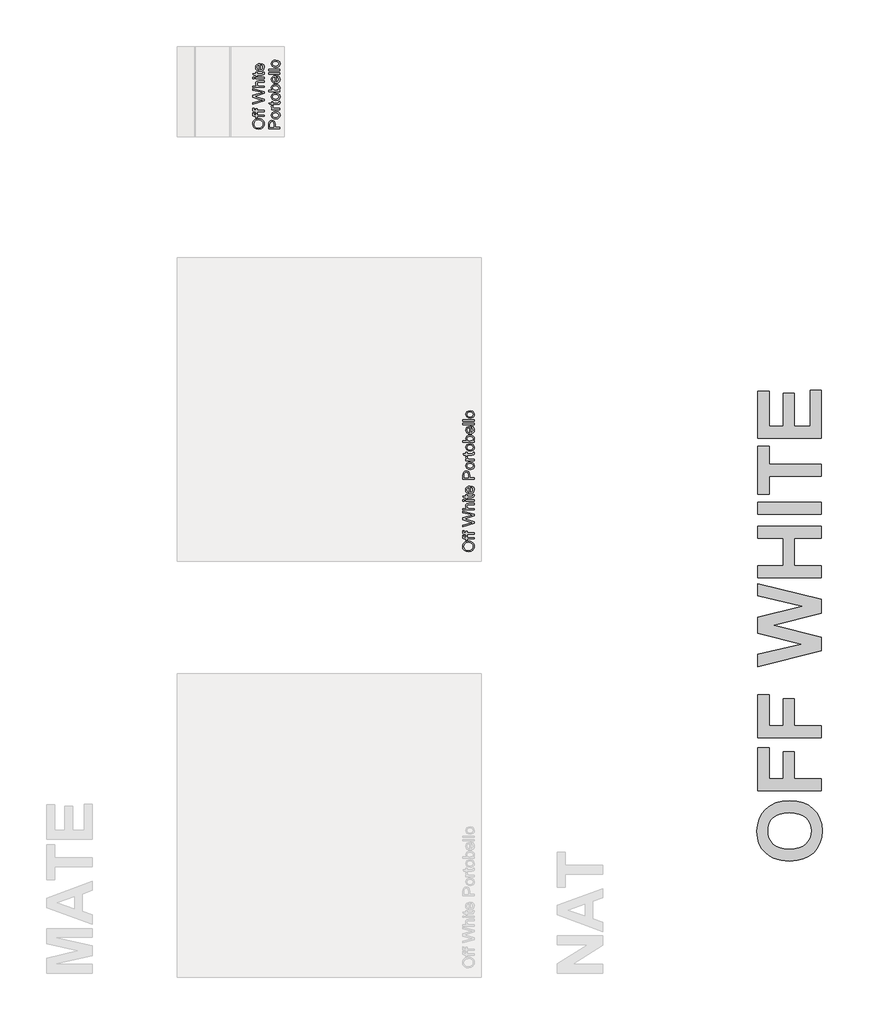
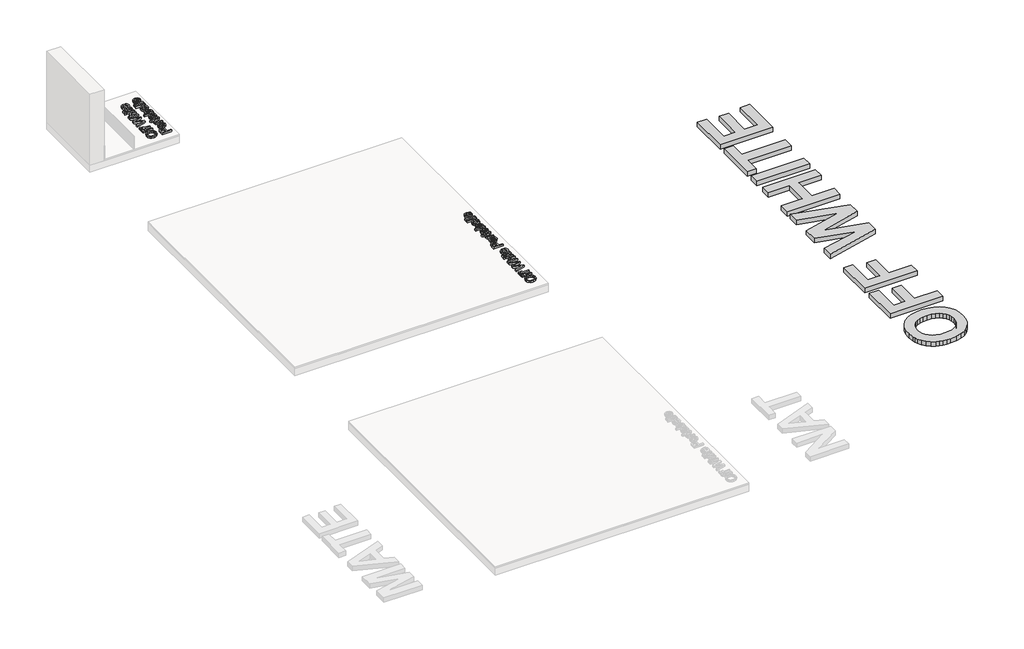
# One storey, part 3 of 8: 5 proxies.
"""IFC4 building model written with IfcOpenShell, lengths in millimetres."""

from ifc_helpers import new_model, si_unit, frame, origin, origin_with_axes, place, context, project, spatial, polyline, outline, extrude, element, save

model = new_model("IFC4")

# Units and contexts
model_context = context("Model", 3, world=origin())
ifc_project = project(units=[si_unit("LENGTHUNIT", "METRE", prefix="MILLI")], contexts=[model_context])

# Site, building, storey
site = spatial("IfcSite", under=ifc_project)
building = spatial("IfcBuilding", under=site)
storey = spatial("IfcBuildingStorey", under=building, Name="PORTOBELLO - SHOWROOM", Elevation=0.0)

# Proxies
placement = place(None, origin())
element("IfcBuildingElementProxy", 1, Name="10mm Arial", ObjectType="10mm Arial", at=placement, inside=storey, context=model_context, shape_type="SweptSolid", body=[
    extrude(outline(polyline([(-5249.1632476, -1584.2478376), (-5271.3771887, -1580.9001115), (-5288.1832645, -1570.856933), (-5298.7598719, -1555.5223851), (-5302.2854077, -1536.3005509), (-5300.6299387, -1523.1242441), (-5295.6635317, -1511.3091007), (-5287.7356748, -1501.4989142), (-5277.1958556, -1494.337478), (-5264.5529777, -1489.9596822), (-5250.3159445, -1488.500417), (-5235.8888389, -1490.0363243), (-5223.0681514, -1494.6440463), (-5212.5099381, -1502.0691313), (-5204.8702553, -1512.0571274), (-5200.2349422, -1523.7711033), (-5198.6898378, -1536.3741273), (-5200.3974234, -1549.7527692), (-5205.5201802, -1561.6353576), (-5213.59519, -1571.4210187), (-5224.1595346, -1578.5088785), (-5249.1632476, -1584.2478376)]), holes=[polyline([(-5249.0406202, -1571.6907988), (-5233.3259277, -1569.1800042), (-5221.3513687, -1561.6476204), (-5213.7729996, -1550.326052), (-5211.2468766, -1536.4477037), (-5213.7975251, -1522.3670203), (-5221.4494706, -1511.0270578), (-5233.7919115, -1503.5498563), (-5250.4140463, -1501.0574558), (-5271.1380654, -1505.3248869), (-5284.8600638, -1517.7960865), (-5289.7283689, -1536.2269745), (-5287.3831212, -1549.7343751), (-5280.347378, -1561.2184247), (-5267.8301931, -1569.0727053), (-5249.0406202, -1571.6907988)])]), frame((0.0, 0.0, 18.0), z_axis=(0.0, 0.0, 1.0), x_axis=(1.0, 0.0, 0.0)), (0.0, 0.0, 1.0), 20.0),
    extrude(outline(polyline([(-5200.2594677, -1428.8544828), (-5261.4750317, -1428.8544828), (-5261.4750317, -1439.8418918), (-5274.0320704, -1439.8418918), (-5274.0320704, -1428.8544828), (-5281.4632867, -1428.8544828), (-5291.9356609, -1427.5301077), (-5299.4159281, -1421.1044355), (-5302.2854077, -1408.4492948), (-5300.9119815, -1396.9959021), (-5289.1397577, -1398.835312), (-5289.7283689, -1406.0703246), (-5287.6437043, -1413.9797875), (-5279.8691314, -1416.2974441), (-5274.0320704, -1416.2974441), (-5274.0320704, -1402.1707755), (-5261.4750317, -1402.1707755), (-5261.4750317, -1416.2974441), (-5200.2594677, -1416.2974441), (-5200.2594677, -1428.8544828)])), frame((0.0, 0.0, 18.0), z_axis=(0.0, 0.0, 1.0), x_axis=(1.0, 0.0, 0.0)), (0.0, 0.0, 1.0), 20.0),
    extrude(outline(polyline([(-5200.2594677, -1469.6648588), (-5261.4750317, -1469.6648588), (-5261.4750317, -1480.6522678), (-5274.0320704, -1480.6522678), (-5274.0320704, -1469.6648588), (-5281.4632867, -1469.6648588), (-5291.9356609, -1468.3404837), (-5299.4159281, -1461.9148115), (-5302.2854077, -1449.2596708), (-5300.9119815, -1437.8062781), (-5289.1397577, -1439.645688), (-5289.7283689, -1446.8807006), (-5287.6437043, -1454.7901635), (-5279.8691314, -1457.1078201), (-5274.0320704, -1457.1078201), (-5274.0320704, -1442.9811515), (-5261.4750317, -1442.9811515), (-5261.4750317, -1457.1078201), (-5200.2594677, -1457.1078201), (-5200.2594677, -1469.6648588)])), frame((0.0, 0.0, 18.0), z_axis=(0.0, 0.0, 1.0), x_axis=(1.0, 0.0, 0.0)), (0.0, 0.0, 1.0), 20.0),
    extrude(outline(polyline([(-5200.2594677, -1332.3958237), (-5300.7157778, -1359.7907696), (-5300.7157778, -1346.8413234), (-5234.6932224, -1330.9488212), (-5214.3125599, -1326.0437279), (-5232.3387776, -1320.7952781), (-5300.7157778, -1300.8805995), (-5300.7157778, -1282.2167196), (-5251.1498103, -1267.7466944), (-5214.3125599, -1256.9800147), (-5234.1046112, -1252.2220742), (-5300.7157778, -1236.2069447), (-5300.7157778, -1223.232973), (-5200.2594677, -1250.6033934), (-5200.2594677, -1264.043349), (-5277.7599413, -1288.1518824), (-5288.575672, -1291.5118713), (-5275.5526493, -1295.2887931), (-5200.2594677, -1317.2390855), (-5200.2594677, -1332.3958237)])), frame((0.0, 0.0, 18.0), z_axis=(0.0, 0.0, 1.0), x_axis=(1.0, 0.0, 0.0)), (0.0, 0.0, 1.0), 20.0),
    extrude(outline(polyline([(-5200.2594677, -1212.2455641), (-5300.7157778, -1212.2455641), (-5300.7157778, -1199.6885253), (-5263.7804255, -1199.6885253), (-5272.6463816, -1189.8967329), (-5275.6017003, -1177.8363348), (-5272.3766015, -1163.7341917), (-5263.4615944, -1155.1748039), (-5246.9559556, -1152.5996299), (-5200.2594677, -1152.5996299), (-5200.2594677, -1165.1566687), (-5245.6561059, -1165.1566687), (-5258.8998577, -1169.1543197), (-5263.0446615, -1180.4850852), (-5260.2487583, -1190.7735183), (-5252.6703892, -1197.6406489), (-5239.4511629, -1199.6885253), (-5200.2594677, -1199.6885253), (-5200.2594677, -1212.2455641)])), frame((0.0, 0.0, 18.0), z_axis=(0.0, 0.0, 1.0), x_axis=(1.0, 0.0, 0.0)), (0.0, 0.0, 1.0), 20.0),
    extrude(outline(polyline([(-5288.158739, -1135.3337016), (-5300.7157778, -1135.3337016), (-5300.7157778, -1122.7766629), (-5288.158739, -1122.7766629), (-5288.158739, -1135.3337016)])), frame((0.0, 0.0, 18.0), z_axis=(0.0, 0.0, 1.0), x_axis=(1.0, 0.0, 0.0)), (0.0, 0.0, 1.0), 20.0),
    extrude(outline(polyline([(-5200.2594677, -1135.3337016), (-5274.0320704, -1135.3337016), (-5274.0320704, -1122.7766629), (-5200.2594677, -1122.7766629), (-5200.2594677, -1135.3337016)])), frame((0.0, 0.0, 18.0), z_axis=(0.0, 0.0, 1.0), x_axis=(1.0, 0.0, 0.0)), (0.0, 0.0, 1.0), 20.0),
    extrude(outline(polyline([(-5210.7318418, -1077.2573973), (-5199.8915857, -1075.6877675), (-5198.6898378, -1085.0810211), (-5200.7745025, -1095.6024461), (-5206.2436815, -1100.8508959), (-5220.4929774, -1102.3714749), (-5261.4750317, -1102.3714749), (-5261.4750317, -1111.7892539), (-5274.0320704, -1111.7892539), (-5274.0320704, -1102.3714749), (-5291.9601863, -1102.3714749), (-5299.3423517, -1089.8144361), (-5274.0320704, -1089.8144361), (-5274.0320704, -1077.2573973), (-5261.4750317, -1077.2573973), (-5261.4750317, -1089.8144361), (-5220.8608594, -1089.8144361), (-5214.3861363, -1089.1522485), (-5212.0930052, -1087.0062702), (-5211.2468766, -1082.7265763), (-5210.7318418, -1077.2573973)])), frame((0.0, 0.0, 18.0), z_axis=(0.0, 0.0, 1.0), x_axis=(1.0, 0.0, 0.0)), (0.0, 0.0, 1.0), 20.0),
    extrude(outline(polyline([(-5222.2342855, -1013.0497264), (-5220.6646557, -1000.7379423), (-5211.387898, -1005.173986), (-5204.4533224, -1012.2526488), (-5200.130709, -1021.814515), (-5198.6898378, -1033.7001691), (-5201.176107, -1048.433843), (-5208.6349144, -1059.7707398), (-5220.5818822, -1066.999621), (-5236.5326324, -1069.4092481), (-5253.0198771, -1066.9750956), (-5265.3500553, -1059.672638), (-5273.038789, -1048.4890253), (-5275.6017003, -1034.4114076), (-5273.0449204, -1020.7721826), (-5265.3745808, -1009.8736785), (-5253.0689281, -1002.7275708), (-5236.6062088, -1000.3455349), (-5233.2216944, -1000.4191113), (-5233.2216944, -1056.8522093), (-5223.8223095, -1054.6786399), (-5216.9122593, -1049.6294595), (-5212.6632223, -1042.3423303), (-5211.2468766, -1033.4549144), (-5213.8711015, -1021.1431303), (-5222.2342855, -1013.0497264)]), holes=[polyline([(-5245.7787332, -1056.8522093), (-5245.7787332, -1012.9025736), (-5257.1585496, -1017.9302942), (-5261.5731335, -1025.2511459), (-5263.0446615, -1034.4604585), (-5258.3480347, -1049.9237651), (-5252.8573959, -1054.7890045), (-5245.7787332, -1056.8522093)])]), frame((0.0, 0.0, 18.0), z_axis=(0.0, 0.0, 1.0), x_axis=(1.0, 0.0, 0.0)), (0.0, 0.0, 1.0), 20.0),
])
element("IfcBuildingElementProxy", 2, Name="10mm Arial", ObjectType="10mm Arial", at=placement, inside=storey, context=model_context, shape_type="SweptSolid", body=[
    extrude(outline(polyline([(-3382.1699292, -5341.2383616), (-3404.3838704, -5337.8906354), (-3421.1899462, -5327.8474569), (-3431.7665535, -5312.5129091), (-3435.2920893, -5293.2910749), (-3433.6366203, -5280.1147681), (-3428.6702134, -5268.2996247), (-3420.7423564, -5258.4894381), (-3410.2025372, -5251.328002), (-3397.5596593, -5246.9502062), (-3383.3226261, -5245.490941), (-3368.8955206, -5247.0268483), (-3356.074833, -5251.6345703), (-3345.5166198, -5259.0596552), (-3337.876937, -5269.0476514), (-3333.2416239, -5280.7616272), (-3331.6965195, -5293.3646513), (-3333.4041051, -5306.7432932), (-3338.5268618, -5318.6258816), (-3346.6018716, -5328.4115427), (-3357.1662163, -5335.4994024), (-3382.1699292, -5341.2383616)]), holes=[polyline([(-3382.0473019, -5328.6813228), (-3366.3326093, -5326.1705282), (-3354.3580504, -5318.6381443), (-3346.7796813, -5307.3165759), (-3344.2535582, -5293.4382277), (-3346.8042067, -5279.3575443), (-3354.4561522, -5268.0175818), (-3366.7985932, -5260.5403802), (-3383.420728, -5258.0479797), (-3404.1447471, -5262.3154109), (-3417.8667455, -5274.7866105), (-3422.7350505, -5293.2174985), (-3420.3898028, -5306.7248991), (-3413.3540597, -5318.2089487), (-3400.8368748, -5326.0632293), (-3382.0473019, -5328.6813228)])]), frame((0.0, 0.0, 17.0), z_axis=(0.0, 0.0, 1.0), x_axis=(1.0, 0.0, 0.0)), (0.0, 0.0, 1.0), 20.0),
    extrude(outline(polyline([(-3333.2661493, -5185.8450068), (-3394.4817133, -5185.8450068), (-3394.4817133, -5196.8324157), (-3407.0387521, -5196.8324157), (-3407.0387521, -5185.8450068), (-3414.4699684, -5185.8450068), (-3424.9423425, -5184.5206316), (-3432.4226098, -5178.0949594), (-3435.2920893, -5165.4398188), (-3433.9186632, -5153.986426), (-3422.1464394, -5155.825836), (-3422.7350505, -5163.0608486), (-3420.6503859, -5170.9703115), (-3412.8758131, -5173.287968), (-3407.0387521, -5173.287968), (-3407.0387521, -5159.1612994), (-3394.4817133, -5159.1612994), (-3394.4817133, -5173.287968), (-3333.2661493, -5173.287968), (-3333.2661493, -5185.8450068)])), frame((0.0, 0.0, 17.0), z_axis=(0.0, 0.0, 1.0), x_axis=(1.0, 0.0, 0.0)), (0.0, 0.0, 1.0), 20.0),
    extrude(outline(polyline([(-3333.2661493, -5226.6553828), (-3394.4817133, -5226.6553828), (-3394.4817133, -5237.6427917), (-3407.0387521, -5237.6427917), (-3407.0387521, -5226.6553828), (-3414.4699684, -5226.6553828), (-3424.9423425, -5225.3310076), (-3432.4226098, -5218.9053354), (-3435.2920893, -5206.2501948), (-3433.9186632, -5194.796802), (-3422.1464394, -5196.636212), (-3422.7350505, -5203.8712246), (-3420.6503859, -5211.7806875), (-3412.8758131, -5214.098344), (-3407.0387521, -5214.098344), (-3407.0387521, -5199.9716754), (-3394.4817133, -5199.9716754), (-3394.4817133, -5214.098344), (-3333.2661493, -5214.098344), (-3333.2661493, -5226.6553828)])), frame((0.0, 0.0, 17.0), z_axis=(0.0, 0.0, 1.0), x_axis=(1.0, 0.0, 0.0)), (0.0, 0.0, 1.0), 20.0),
    extrude(outline(polyline([(-3333.2661493, -5089.3863477), (-3433.7224595, -5116.7812936), (-3433.7224595, -5103.8318474), (-3367.6999041, -5087.9393452), (-3347.3192415, -5083.0342519), (-3365.3454593, -5077.7858021), (-3433.7224595, -5057.8711234), (-3433.7224595, -5039.2072435), (-3384.156492, -5024.7372184), (-3347.3192415, -5013.9705387), (-3367.1112929, -5009.2125982), (-3433.7224595, -4993.1729432), (-3433.7224595, -4980.223497), (-3333.2661493, -5007.6429683), (-3333.2661493, -5021.0583984), (-3410.766623, -5045.1424064), (-3421.5823536, -5048.5023953), (-3408.559331, -5052.2793171), (-3333.2661493, -5074.2296095), (-3333.2661493, -5089.3863477)])), frame((0.0, 0.0, 17.0), z_axis=(0.0, 0.0, 1.0), x_axis=(1.0, 0.0, 0.0)), (0.0, 0.0, 1.0), 20.0),
    extrude(outline(polyline([(-3333.2661493, -4969.236088), (-3433.7224595, -4969.236088), (-3433.7224595, -4956.6790493), (-3396.7871072, -4956.6790493), (-3405.6530632, -4946.8872568), (-3408.6083819, -4934.8268588), (-3405.3832831, -4920.7247156), (-3396.4682761, -4912.1653279), (-3379.9626372, -4909.5901539), (-3333.2661493, -4909.5901539), (-3333.2661493, -4922.1471927), (-3378.6627875, -4922.1471927), (-3391.9065393, -4926.1448437), (-3396.0513432, -4937.4756091), (-3393.25544, -4947.7640423), (-3385.6770709, -4954.6311728), (-3372.4578445, -4956.6790493), (-3333.2661493, -4956.6790493), (-3333.2661493, -4969.236088)])), frame((0.0, 0.0, 17.0), z_axis=(0.0, 0.0, 1.0), x_axis=(1.0, 0.0, 0.0)), (0.0, 0.0, 1.0), 20.0),
    extrude(outline(polyline([(-3421.1654207, -4892.3242256), (-3433.7224595, -4892.3242256), (-3433.7224595, -4879.7671868), (-3421.1654207, -4879.7671868), (-3421.1654207, -4892.3242256)])), frame((0.0, 0.0, 17.0), z_axis=(0.0, 0.0, 1.0), x_axis=(1.0, 0.0, 0.0)), (0.0, 0.0, 1.0), 20.0),
    extrude(outline(polyline([(-3333.2661493, -4892.3242256), (-3407.0387521, -4892.3242256), (-3407.0387521, -4879.7671868), (-3333.2661493, -4879.7671868), (-3333.2661493, -4892.3242256)])), frame((0.0, 0.0, 17.0), z_axis=(0.0, 0.0, 1.0), x_axis=(1.0, 0.0, 0.0)), (0.0, 0.0, 1.0), 20.0),
    extrude(outline(polyline([(-3343.7385234, -4834.2479213), (-3332.8982673, -4832.6782914), (-3331.6965195, -4842.071545), (-3333.7811841, -4852.5929701), (-3339.2503631, -4857.8414199), (-3353.4996591, -4859.3619988), (-3394.4817133, -4859.3619988), (-3394.4817133, -4868.7797779), (-3407.0387521, -4868.7797779), (-3407.0387521, -4859.3619988), (-3424.966868, -4859.3619988), (-3432.3490334, -4846.8049601), (-3407.0387521, -4846.8049601), (-3407.0387521, -4834.2479213), (-3394.4817133, -4834.2479213), (-3394.4817133, -4846.8049601), (-3353.867541, -4846.8049601), (-3347.3928179, -4846.1427725), (-3345.0996868, -4843.9967942), (-3344.2535582, -4839.7171003), (-3343.7385234, -4834.2479213)])), frame((0.0, 0.0, 17.0), z_axis=(0.0, 0.0, 1.0), x_axis=(1.0, 0.0, 0.0)), (0.0, 0.0, 1.0), 20.0),
    extrude(outline(polyline([(-3355.2409672, -4770.0402504), (-3353.6713373, -4757.7284663), (-3344.3945797, -4762.16451), (-3337.4600041, -4769.2431727), (-3333.1373906, -4778.8050389), (-3331.6965195, -4790.6906931), (-3334.1827886, -4805.424367), (-3341.6415961, -4816.7612638), (-3353.5885639, -4823.990145), (-3369.539314, -4826.3997721), (-3386.0265588, -4823.9656195), (-3398.356737, -4816.6631619), (-3406.0454707, -4805.4795493), (-3408.6083819, -4791.4019316), (-3406.0516021, -4777.7627066), (-3398.3812625, -4766.8642025), (-3386.0756097, -4759.7180947), (-3369.6128904, -4757.3360588), (-3366.2283761, -4757.4096352), (-3366.2283761, -4813.8427333), (-3356.8289911, -4811.6691638), (-3349.918941, -4806.6199834), (-3345.6699039, -4799.3328543), (-3344.2535582, -4790.4454384), (-3346.8777831, -4778.1336543), (-3355.2409672, -4770.0402504)]), holes=[polyline([(-3378.7854149, -4813.8427333), (-3378.7854149, -4769.8930976), (-3390.1652312, -4774.9208182), (-3394.5798152, -4782.2416699), (-3396.0513432, -4791.4509825), (-3391.3547164, -4806.914289), (-3385.8640776, -4811.7795284), (-3378.7854149, -4813.8427333)])]), frame((0.0, 0.0, 17.0), z_axis=(0.0, 0.0, 1.0), x_axis=(1.0, 0.0, 0.0)), (0.0, 0.0, 1.0), 20.0),
])
element("IfcBuildingElementProxy", 3, Name="10mm Arial", ObjectType="10mm Arial", at=placement, inside=storey, context=model_context, shape_type="SweptSolid", body=[
    extrude(outline(polyline([(-3331.3073778, -4697.4320978), (-3431.7636879, -4697.4320978), (-3431.7636879, -4660.2024399), (-3430.8071948, -4645.1928545), (-3426.110568, -4632.991435), (-3416.3984833, -4625.0819721), (-3402.7010103, -4622.0898652), (-3390.8613414, -4624.1101505), (-3380.9959726, -4630.1710064), (-3374.3373085, -4641.5048375), (-3372.1177538, -4659.3440486), (-3372.1177538, -4684.875059), (-3331.3073778, -4684.875059), (-3331.3073778, -4697.4320978)]), holes=[polyline([(-3384.6747926, -4684.875059), (-3384.6747926, -4658.6082846), (-3389.2855802, -4640.116083), (-3394.834467, -4636.0141987), (-3402.2595519, -4634.646904), (-3412.6583497, -4637.8720028), (-3418.3482579, -4646.3455514), (-3419.2066492, -4658.9025902), (-3419.2066492, -4684.875059), (-3384.6747926, -4684.875059)])]), frame((0.0, 0.0, 17.0), z_axis=(0.0, 0.0, 1.0), x_axis=(1.0, 0.0, 0.0)), (0.0, 0.0, 1.0), 20.0),
    extrude(outline(polyline([(-3368.1936792, -4609.5328264), (-3385.9807736, -4606.816631), (-3398.4826301, -4598.6680448), (-3404.6078653, -4588.6003409), (-3406.6496104, -4576.5460742), (-3404.1633413, -4563.354439), (-3396.7045338, -4552.8176855), (-3384.8617992, -4545.9107011), (-3369.2237488, -4543.6083729), (-3346.8810489, -4547.6796003), (-3334.238171, -4559.5376633), (-3329.7377479, -4576.5460742), (-3332.21482, -4589.8971249), (-3339.6460364, -4600.4216157), (-3351.7370913, -4607.2550237), (-3368.1936792, -4609.5328264)]), holes=[polyline([(-3368.2182046, -4596.9757877), (-3356.8537167, -4595.5226538), (-3348.7572471, -4591.1632521), (-3343.9104018, -4584.6026899), (-3342.2947867, -4576.5460742), (-3343.9195989, -4568.5262467), (-3348.7940353, -4561.9779472), (-3356.9978038, -4557.6185455), (-3368.6106121, -4556.1654117), (-3379.6440063, -4557.6277426), (-3387.6301113, -4562.0147354), (-3392.4769565, -4568.572232), (-3394.0925716, -4576.5460742), (-3392.4830879, -4584.6026899), (-3387.6546367, -4591.1632521), (-3379.5765612, -4595.5226538), (-3368.2182046, -4596.9757877)])]), frame((0.0, 0.0, 17.0), z_axis=(0.0, 0.0, 1.0), x_axis=(1.0, 0.0, 0.0)), (0.0, 0.0, 1.0), 20.0),
    extrude(outline(polyline([(-3331.3073778, -4529.4817043), (-3405.0799806, -4529.4817043), (-3405.0799806, -4518.4942954), (-3394.166148, -4518.4942954), (-3404.2215892, -4510.6951971), (-3406.6496104, -4502.8470478), (-3402.7745867, -4490.2409581), (-3391.5173977, -4494.4348129), (-3394.0925716, -4503.2639808), (-3391.6154995, -4510.3641033), (-3384.748369, -4514.8890518), (-3370.0821401, -4516.9246655), (-3331.3073778, -4516.9246655), (-3331.3073778, -4529.4817043)])), frame((0.0, 0.0, 17.0), z_axis=(0.0, 0.0, 1.0), x_axis=(1.0, 0.0, 0.0)), (0.0, 0.0, 1.0), 20.0),
    extrude(outline(polyline([(-3341.7797519, -4455.7091015), (-3330.9394958, -4454.1394717), (-3329.7377479, -4463.5327253), (-3331.8224126, -4474.0541503), (-3337.2915916, -4479.3026001), (-3351.5408875, -4480.8231791), (-3392.5229418, -4480.8231791), (-3392.5229418, -4490.2409581), (-3402.7745867, -4490.2409581), (-3405.0799806, -4490.2409581), (-3405.0799806, -4480.8231791), (-3423.0080965, -4480.8231791), (-3430.3902618, -4468.2661403), (-3405.0799806, -4468.2661403), (-3405.0799806, -4455.7091015), (-3392.5229418, -4455.7091015), (-3392.5229418, -4468.2661403), (-3351.9087695, -4468.2661403), (-3345.4340464, -4467.6039527), (-3343.1409153, -4465.4579744), (-3342.2947867, -4461.1782805), (-3341.7797519, -4455.7091015)])), frame((0.0, 0.0, 17.0), z_axis=(0.0, 0.0, 1.0), x_axis=(1.0, 0.0, 0.0)), (0.0, 0.0, 1.0), 20.0),
    extrude(outline(polyline([(-3368.1936792, -4446.2913224), (-3385.9807736, -4443.575127), (-3398.4826301, -4435.4265408), (-3404.6078653, -4425.3588369), (-3406.6496104, -4413.3045702), (-3404.1633413, -4400.112935), (-3396.7045338, -4389.5761815), (-3384.8617992, -4382.6691971), (-3369.2237488, -4380.3668689), (-3346.8810489, -4384.4380963), (-3334.238171, -4396.2961593), (-3329.7377479, -4413.3045702), (-3332.21482, -4426.6556209), (-3339.6460364, -4437.1801117), (-3351.7370913, -4444.0135198), (-3368.1936792, -4446.2913224)]), holes=[polyline([(-3368.2182046, -4433.7342837), (-3356.8537167, -4432.2811498), (-3348.7572471, -4427.9217481), (-3343.9104018, -4421.3611859), (-3342.2947867, -4413.3045702), (-3343.9195989, -4405.2847427), (-3348.7940353, -4398.7364432), (-3356.9978038, -4394.3770416), (-3368.6106121, -4392.9239077), (-3379.6440063, -4394.3862386), (-3387.6301113, -4398.7732314), (-3392.4769565, -4405.330728), (-3394.0925716, -4413.3045702), (-3392.4830879, -4421.3611859), (-3387.6546367, -4427.9217481), (-3379.5765612, -4432.2811498), (-3368.2182046, -4433.7342837)])]), frame((0.0, 0.0, 17.0), z_axis=(0.0, 0.0, 1.0), x_axis=(1.0, 0.0, 0.0)), (0.0, 0.0, 1.0), 20.0),
    extrude(outline(polyline([(-3331.3073778, -4353.6831615), (-3331.3073778, -4366.2402003), (-3431.7636879, -4366.2402003), (-3431.7636879, -4353.6831615), (-3394.5095046, -4353.6831615), (-3403.6145839, -4344.8907818), (-3406.6496104, -4333.9646866), (-3403.9150209, -4321.3831223), (-3396.2262872, -4311.6219867), (-3384.2701224, -4305.6255102), (-3369.2973252, -4303.4550064), (-3352.5341689, -4305.7021523), (-3340.0629693, -4312.4435899), (-3332.3190533, -4322.3365498), (-3329.7377479, -4334.038263), (-3333.06708, -4345.2034815), (-3343.0550762, -4353.6831615), (-3331.3073778, -4353.6831615)]), holes=[polyline([(-3368.708714, -4353.6831615), (-3351.1484801, -4350.2495962), (-3344.5082101, -4343.6706399), (-3342.2947867, -4335.1173835), (-3343.9257302, -4327.8701082), (-3348.8185608, -4321.6774279), (-3356.9426215, -4317.4283909), (-3368.2672556, -4316.0120452), (-3379.7574366, -4317.3701429), (-3387.7895268, -4321.444436), (-3392.5168104, -4327.4439782), (-3394.0925716, -4334.5778232), (-3392.4616281, -4341.8250985), (-3387.5687976, -4348.0177788), (-3379.5918897, -4352.2668158), (-3368.708714, -4353.6831615)])]), frame((0.0, 0.0, 17.0), z_axis=(0.0, 0.0, 1.0), x_axis=(1.0, 0.0, 0.0)), (0.0, 0.0, 1.0), 20.0),
    extrude(outline(polyline([(-3353.2821956, -4237.6777057), (-3351.7125658, -4225.3659216), (-3342.4358081, -4229.8019653), (-3335.5012325, -4236.8806281), (-3331.1786191, -4246.4424942), (-3329.7377479, -4258.3281484), (-3332.2240171, -4273.0618223), (-3339.6828246, -4284.3987191), (-3351.6297923, -4291.6276003), (-3367.5805425, -4294.0372274), (-3384.0677873, -4291.6030748), (-3396.3979655, -4284.3006172), (-3404.0866992, -4273.1170046), (-3406.6496104, -4259.0393869), (-3404.0928305, -4245.4001619), (-3396.4224909, -4234.5016578), (-3384.1168382, -4227.3555501), (-3367.6541189, -4224.9735141), (-3364.2696046, -4225.0470905), (-3364.2696046, -4281.4801886), (-3354.8702196, -4279.3066191), (-3347.9601694, -4274.2574388), (-3343.7111324, -4266.9703096), (-3342.2947867, -4258.0828937), (-3344.9190116, -4245.7711096), (-3353.2821956, -4237.6777057)]), holes=[polyline([(-3376.8266433, -4281.4801886), (-3376.8266433, -4237.5305529), (-3388.2064597, -4242.5582735), (-3392.6210437, -4249.8791252), (-3394.0925716, -4259.0884378), (-3389.3959448, -4274.5517444), (-3383.9053061, -4279.4169837), (-3376.8266433, -4281.4801886)])]), frame((0.0, 0.0, 17.0), z_axis=(0.0, 0.0, 1.0), x_axis=(1.0, 0.0, 0.0)), (0.0, 0.0, 1.0), 20.0),
    extrude(outline(polyline([(-3331.3073778, -4212.4164754), (-3431.7636879, -4212.4164754), (-3431.7636879, -4199.8594366), (-3331.3073778, -4199.8594366), (-3331.3073778, -4212.4164754)])), frame((0.0, 0.0, 17.0), z_axis=(0.0, 0.0, 1.0), x_axis=(1.0, 0.0, 0.0)), (0.0, 0.0, 1.0), 20.0),
    extrude(outline(polyline([(-3331.3073778, -4181.0238785), (-3431.7636879, -4181.0238785), (-3431.7636879, -4168.4668397), (-3331.3073778, -4168.4668397), (-3331.3073778, -4181.0238785)])), frame((0.0, 0.0, 17.0), z_axis=(0.0, 0.0, 1.0), x_axis=(1.0, 0.0, 0.0)), (0.0, 0.0, 1.0), 20.0),
    extrude(outline(polyline([(-3368.1936792, -4152.7705412), (-3385.9807736, -4150.0543458), (-3398.4826301, -4141.9057596), (-3404.6078653, -4131.8380557), (-3406.6496104, -4119.783789), (-3404.1633413, -4106.5921538), (-3396.7045338, -4096.0554003), (-3384.8617992, -4089.1484158), (-3369.2237488, -4086.8460877), (-3346.8810489, -4090.9173151), (-3334.238171, -4102.7753781), (-3329.7377479, -4119.783789), (-3332.21482, -4133.1348397), (-3339.6460364, -4143.6593305), (-3351.7370913, -4150.4927385), (-3368.1936792, -4152.7705412)]), holes=[polyline([(-3368.2182046, -4140.2135025), (-3356.8537167, -4138.7603686), (-3348.7572471, -4134.4009669), (-3343.9104018, -4127.8404047), (-3342.2947867, -4119.783789), (-3343.9195989, -4111.7639615), (-3348.7940353, -4105.215662), (-3356.9978038, -4100.8562603), (-3368.6106121, -4099.4031265), (-3379.6440063, -4100.8654574), (-3387.6301113, -4105.2524502), (-3392.4769565, -4111.8099467), (-3394.0925716, -4119.783789), (-3392.4830879, -4127.8404047), (-3387.6546367, -4134.4009669), (-3379.5765612, -4138.7603686), (-3368.2182046, -4140.2135025)])]), frame((0.0, 0.0, 17.0), z_axis=(0.0, 0.0, 1.0), x_axis=(1.0, 0.0, 0.0)), (0.0, 0.0, 1.0), 20.0),
])
element("IfcBuildingElementProxy", 4, Name="10mm OpenSans Light", ObjectType="10mm OpenSans Light", at=placement, inside=storey, context=model_context, shape_type="SweptSolid", body=[
    extrude(outline(polyline([(-5060.2594677, -1579.5389481), (-5160.7157778, -1579.5389481), (-5160.7157778, -1542.3092902), (-5159.7592846, -1527.2997048), (-5155.0626578, -1515.0982852), (-5145.3505732, -1507.1888224), (-5131.6531002, -1504.1967155), (-5119.8134313, -1506.2170007), (-5109.9480625, -1512.2778566), (-5103.2893984, -1523.6116878), (-5101.0698437, -1541.4508988), (-5101.0698437, -1566.9819093), (-5060.2594677, -1566.9819093), (-5060.2594677, -1579.5389481)]), holes=[polyline([(-5113.6268824, -1566.9819093), (-5113.6268824, -1540.7151348), (-5118.2376701, -1522.2229332), (-5123.7865569, -1518.121049), (-5131.2116418, -1516.7537542), (-5141.6104395, -1519.978853), (-5147.3003477, -1528.4524017), (-5148.158739, -1541.0094404), (-5148.158739, -1566.9819093), (-5113.6268824, -1566.9819093)])]), frame((0.0, 0.0, 18.0), z_axis=(0.0, 0.0, 1.0), x_axis=(1.0, 0.0, 0.0)), (0.0, 0.0, 1.0), 20.0),
    extrude(outline(polyline([(-5097.145769, -1491.6396767), (-5114.9328635, -1488.9234813), (-5127.43472, -1480.7748951), (-5133.5599552, -1470.7071912), (-5135.6017003, -1458.6529245), (-5133.1154311, -1445.4612892), (-5125.6566237, -1434.9245358), (-5113.8138891, -1428.0175513), (-5098.1758386, -1425.7152232), (-5075.8331388, -1429.7864506), (-5063.1902609, -1441.6445135), (-5058.6898378, -1458.6529245), (-5061.1669099, -1472.0039752), (-5068.5981262, -1482.5284659), (-5080.6891811, -1489.361874), (-5097.145769, -1491.6396767)]), holes=[polyline([(-5097.1702945, -1479.0826379), (-5085.8058065, -1477.629504), (-5077.709337, -1473.2701024), (-5072.8624917, -1466.7095401), (-5071.2468766, -1458.6529245), (-5072.8716887, -1450.633097), (-5077.7461252, -1444.0847974), (-5085.9498937, -1439.7253958), (-5097.562702, -1438.2722619), (-5108.5960961, -1439.7345929), (-5116.5822011, -1444.1215856), (-5121.4290464, -1450.6790822), (-5123.0446615, -1458.6529245), (-5121.4351778, -1466.7095401), (-5116.6067266, -1473.2701024), (-5108.5286511, -1477.629504), (-5097.1702945, -1479.0826379)])]), frame((0.0, 0.0, 18.0), z_axis=(0.0, 0.0, 1.0), x_axis=(1.0, 0.0, 0.0)), (0.0, 0.0, 1.0), 20.0),
    extrude(outline(polyline([(-5060.2594677, -1411.5885545), (-5134.0320704, -1411.5885545), (-5134.0320704, -1400.6011456), (-5123.1182379, -1400.6011456), (-5133.1736791, -1392.8020473), (-5135.6017003, -1384.9538981), (-5131.7266766, -1372.3478084), (-5120.4694875, -1376.5416631), (-5123.0446615, -1385.370831), (-5120.5675894, -1392.4709535), (-5113.7004588, -1396.9959021), (-5099.03423, -1399.0315158), (-5060.2594677, -1399.0315158), (-5060.2594677, -1411.5885545)])), frame((0.0, 0.0, 18.0), z_axis=(0.0, 0.0, 1.0), x_axis=(1.0, 0.0, 0.0)), (0.0, 0.0, 1.0), 20.0),
    extrude(outline(polyline([(-5070.7318418, -1337.8159518), (-5059.8915857, -1336.2463219), (-5058.6898378, -1345.6395755), (-5060.7745025, -1356.1610006), (-5066.2436815, -1361.4094504), (-5080.4929774, -1362.9300293), (-5121.4750317, -1362.9300293), (-5121.4750317, -1372.3478084), (-5131.7266766, -1372.3478084), (-5134.0320704, -1372.3478084), (-5134.0320704, -1362.9300293), (-5151.9601863, -1362.9300293), (-5159.3423517, -1350.3729905), (-5134.0320704, -1350.3729905), (-5134.0320704, -1337.8159518), (-5121.4750317, -1337.8159518), (-5121.4750317, -1350.3729905), (-5080.8608594, -1350.3729905), (-5074.3861363, -1349.7108029), (-5072.0930052, -1347.5648246), (-5071.2468766, -1343.2851308), (-5070.7318418, -1337.8159518)])), frame((0.0, 0.0, 18.0), z_axis=(0.0, 0.0, 1.0), x_axis=(1.0, 0.0, 0.0)), (0.0, 0.0, 1.0), 20.0),
    extrude(outline(polyline([(-5097.145769, -1328.3981727), (-5114.9328635, -1325.6819773), (-5127.43472, -1317.5333911), (-5133.5599552, -1307.4656872), (-5135.6017003, -1295.4114205), (-5133.1154311, -1282.2197852), (-5125.6566237, -1271.6830318), (-5113.8138891, -1264.7760473), (-5098.1758386, -1262.4737192), (-5075.8331388, -1266.5449466), (-5063.1902609, -1278.4030095), (-5058.6898378, -1295.4114205), (-5061.1669099, -1308.7624712), (-5068.5981262, -1319.2869619), (-5080.6891811, -1326.12037), (-5097.145769, -1328.3981727)]), holes=[polyline([(-5097.1702945, -1315.8411339), (-5085.8058065, -1314.388), (-5077.709337, -1310.0285984), (-5072.8624917, -1303.4680362), (-5071.2468766, -1295.4114205), (-5072.8716887, -1287.391593), (-5077.7461252, -1280.8432935), (-5085.9498937, -1276.4838918), (-5097.562702, -1275.0307579), (-5108.5960961, -1276.4930889), (-5116.5822011, -1280.8800817), (-5121.4290464, -1287.4375782), (-5123.0446615, -1295.4114205), (-5121.4351778, -1303.4680362), (-5116.6067266, -1310.0285984), (-5108.5286511, -1314.388), (-5097.1702945, -1315.8411339)])]), frame((0.0, 0.0, 18.0), z_axis=(0.0, 0.0, 1.0), x_axis=(1.0, 0.0, 0.0)), (0.0, 0.0, 1.0), 20.0),
    extrude(outline(polyline([(-5060.2594677, -1235.7900118), (-5060.2594677, -1248.3470505), (-5160.7157778, -1248.3470505), (-5160.7157778, -1235.7900118), (-5123.4615944, -1235.7900118), (-5132.5666738, -1226.9976321), (-5135.6017003, -1216.0715368), (-5132.8671108, -1203.4899726), (-5125.1783771, -1193.728837), (-5113.2222122, -1187.7323605), (-5098.249415, -1185.5618567), (-5081.4862588, -1187.8090026), (-5069.0150592, -1194.5504401), (-5061.2711432, -1204.4434001), (-5058.6898378, -1216.1451132), (-5062.0191699, -1227.3103318), (-5072.007166, -1235.7900118), (-5060.2594677, -1235.7900118)]), holes=[polyline([(-5097.6608038, -1235.7900118), (-5080.1005699, -1232.3564465), (-5073.4602999, -1225.7774901), (-5071.2468766, -1217.2242338), (-5072.8778201, -1209.9769584), (-5077.7706506, -1203.7842782), (-5085.8947114, -1199.5352412), (-5097.2193454, -1198.1188955), (-5108.7095264, -1199.4769932), (-5116.7416167, -1203.5512863), (-5121.4689003, -1209.5508285), (-5123.0446615, -1216.6846735), (-5121.413718, -1223.9319488), (-5116.5208875, -1230.124629), (-5108.5439795, -1234.3736661), (-5097.6608038, -1235.7900118)])]), frame((0.0, 0.0, 18.0), z_axis=(0.0, 0.0, 1.0), x_axis=(1.0, 0.0, 0.0)), (0.0, 0.0, 1.0), 20.0),
    extrude(outline(polyline([(-5082.2342855, -1119.784556), (-5080.6646557, -1107.4727719), (-5071.387898, -1111.9088156), (-5064.4533224, -1118.9874783), (-5060.130709, -1128.5493445), (-5058.6898378, -1140.4349986), (-5061.176107, -1155.1686725), (-5068.6349144, -1166.5055694), (-5080.5818822, -1173.7344506), (-5096.5326324, -1176.1440776), (-5113.0198771, -1173.7099251), (-5125.3500553, -1166.4074675), (-5133.038789, -1155.2238548), (-5135.6017003, -1141.1462371), (-5133.0449204, -1127.5070122), (-5125.3745808, -1116.6085081), (-5113.0689281, -1109.4624003), (-5096.6062088, -1107.0803644), (-5093.2216944, -1107.1539408), (-5093.2216944, -1163.5870389), (-5083.8223095, -1161.4134694), (-5076.9122593, -1156.364289), (-5072.6632223, -1149.0771598), (-5071.2468766, -1140.189744), (-5073.8711015, -1127.8779599), (-5082.2342855, -1119.784556)]), holes=[polyline([(-5105.7787332, -1163.5870389), (-5105.7787332, -1119.6374032), (-5117.1585496, -1124.6651238), (-5121.5731335, -1131.9859755), (-5123.0446615, -1141.1952881), (-5118.3480347, -1156.6585946), (-5112.8573959, -1161.523834), (-5105.7787332, -1163.5870389)])]), frame((0.0, 0.0, 18.0), z_axis=(0.0, 0.0, 1.0), x_axis=(1.0, 0.0, 0.0)), (0.0, 0.0, 1.0), 20.0),
    extrude(outline(polyline([(-5060.2594677, -1094.5233256), (-5160.7157778, -1094.5233256), (-5160.7157778, -1081.9662869), (-5060.2594677, -1081.9662869), (-5060.2594677, -1094.5233256)])), frame((0.0, 0.0, 18.0), z_axis=(0.0, 0.0, 1.0), x_axis=(1.0, 0.0, 0.0)), (0.0, 0.0, 1.0), 20.0),
    extrude(outline(polyline([(-5060.2594677, -1063.1307287), (-5160.7157778, -1063.1307287), (-5160.7157778, -1050.5736899), (-5060.2594677, -1050.5736899), (-5060.2594677, -1063.1307287)])), frame((0.0, 0.0, 18.0), z_axis=(0.0, 0.0, 1.0), x_axis=(1.0, 0.0, 0.0)), (0.0, 0.0, 1.0), 20.0),
    extrude(outline(polyline([(-5097.145769, -1034.8773915), (-5114.9328635, -1032.1611961), (-5127.43472, -1024.0126099), (-5133.5599552, -1013.944906), (-5135.6017003, -1001.8906392), (-5133.1154311, -988.699004), (-5125.6566237, -978.1622506), (-5113.8138891, -971.2552661), (-5098.1758386, -968.9529379), (-5075.8331388, -973.0241654), (-5063.1902609, -984.8822283), (-5058.6898378, -1001.8906392), (-5061.1669099, -1015.24169), (-5068.5981262, -1025.7661807), (-5080.6891811, -1032.5995888), (-5097.145769, -1034.8773915)]), holes=[polyline([(-5097.1702945, -1022.3203527), (-5085.8058065, -1020.8672188), (-5077.709337, -1016.5078172), (-5072.8624917, -1009.9472549), (-5071.2468766, -1001.8906392), (-5072.8716887, -993.8708117), (-5077.7461252, -987.3225122), (-5085.9498937, -982.9631106), (-5097.562702, -981.5099767), (-5108.5960961, -982.9723076), (-5116.5822011, -987.3593004), (-5121.4290464, -993.916797), (-5123.0446615, -1001.8906392), (-5121.4351778, -1009.9472549), (-5116.6067266, -1016.5078172), (-5108.5286511, -1020.8672188), (-5097.1702945, -1022.3203527)])]), frame((0.0, 0.0, 18.0), z_axis=(0.0, 0.0, 1.0), x_axis=(1.0, 0.0, 0.0)), (0.0, 0.0, 1.0), 20.0),
])
element("IfcBuildingElementProxy", 5, Name="550mm Arial", ObjectType="550mm Arial", at=placement, inside=storey, context=model_context, shape_type="SweptSolid", body=[
    extrude(outline(polyline([(-524.3171681, -8090.6468334), (-565.3903899, -8089.0724468), (-603.0190976, -8084.3492873), (-637.2032911, -8076.4773547), (-667.9429705, -8065.456649), (-708.4942963, -8043.2412724), (-744.696488, -8014.1716605), (-774.322789, -7980.1266392), (-795.1464428, -7942.9850345), (-804.8276152, -7916.2465585), (-811.7427383, -7887.5248773), (-817.2748368, -7824.1318996), (-812.4777419, -7766.2884169), (-798.0864574, -7714.5337219), (-774.1009832, -7668.8678145), (-740.5213193, -7629.2906947), (-698.3999562, -7597.3245596), (-648.7893842, -7574.4916059), (-591.6896034, -7560.7918337), (-527.1006138, -7556.2252429), (-462.9508868, -7560.7570406), (-406.1946876, -7574.3524336), (-356.8320163, -7597.0114219), (-314.8628728, -7628.7340056), (-281.3745408, -7668.0501773), (-257.4543036, -7713.4899297), (-243.1021612, -7765.0532628), (-238.3181138, -7822.7401767), (-243.0804156, -7881.0359693), (-257.3673209, -7933.0342159), (-281.1788297, -7978.7349163), (-314.5149421, -8018.1380707), (-356.2013919, -8049.8606544), (-405.0639128, -8072.5196427), (-461.1025048, -8086.1150357), (-524.3171681, -8090.6468334)]), holes=[polyline([(-528.2139922, -7983.7625153), (-483.8267302, -7980.9225308), (-445.1629286, -7972.4025772), (-412.2225874, -7958.2026545), (-385.0057066, -7938.3227629), (-363.6949498, -7914.0676423), (-348.4729807, -7886.7420332), (-339.3397992, -7856.3459354), (-336.2954054, -7822.879349), (-339.3180535, -7789.4475556), (-348.385998, -7759.1558371), (-363.4992388, -7732.0041933), (-384.6577759, -7707.9926243), (-411.8616093, -7688.3562841), (-445.110739, -7674.3303268), (-484.405165, -7665.9147525), (-529.7448873, -7663.109561), (-574.4539852, -7665.8408172), (-613.1090886, -7674.0345857), (-645.7101973, -7687.6908666), (-672.2573115, -7706.8096598), (-692.8374137, -7730.4515524), (-707.5374868, -7757.6771315), (-716.3575306, -7788.486397), (-719.2975452, -7822.879349), (-716.3227375, -7857.307094), (-707.3983145, -7888.2207388), (-692.5242761, -7915.6202832), (-671.7006223, -7939.5057273), (-644.8838618, -7958.8680721), (-612.0305033, -7972.6983183), (-573.1405468, -7980.996466), (-528.2139922, -7983.7625153)])]), origin_with_axes(), (0.0, 0.0, 1.0), 50.0),
    extrude(outline(polyline([(-247.2251403, -7467.1549778), (-808.3678103, -7467.1549778), (-808.3678103, -7084.152838), (-710.3905187, -7084.152838), (-710.3905187, -7360.2706597), (-585.6921476, -7360.2706597), (-585.6921476, -7119.780944), (-487.714856, -7119.780944), (-487.714856, -7360.2706597), (-247.2251403, -7360.2706597), (-247.2251403, -7467.1549778)])), origin_with_axes(), (0.0, 0.0, 1.0), 50.0),
    extrude(outline(polyline([(-247.2251403, -6995.0825729), (-808.3678103, -6995.0825729), (-808.3678103, -6612.0804331), (-710.3905187, -6612.0804331), (-710.3905187, -6888.1982548), (-585.6921476, -6888.1982548), (-585.6921476, -6647.7085391), (-487.714856, -6647.7085391), (-487.714856, -6888.1982548), (-247.2251403, -6888.1982548), (-247.2251403, -6995.0825729)])), origin_with_axes(), (0.0, 0.0, 1.0), 50.0),
    extrude(outline(polyline([(-247.2251403, -6221.4238174), (-808.3678103, -6362.6836909), (-808.3678103, -6253.015927), (-422.8605692, -6162.2755945), (-808.3678103, -6064.7158198), (-808.3678103, -5921.0900173), (-416.4586439, -5823.8085872), (-808.3678103, -5733.2074269), (-808.3678103, -5623.4004908), (-247.2251403, -5762.0160908), (-247.2251403, -5888.8020462), (-666.6904199, -5993.0420908), (-247.2251403, -6099.0913752), (-247.2251403, -6221.4238174)])), origin_with_axes(), (0.0, 0.0, 1.0), 50.0),
    extrude(outline(polyline([(-247.2251403, -5569.9583317), (-808.3678103, -5569.9583317), (-808.3678103, -5463.0740136), (-585.6921476, -5463.0740136), (-585.6921476, -5222.5842979), (-808.3678103, -5222.5842979), (-808.3678103, -5115.6999798), (-247.2251403, -5115.6999798), (-247.2251403, -5222.5842979), (-487.714856, -5222.5842979), (-487.714856, -5463.0740136), (-247.2251403, -5463.0740136), (-247.2251403, -5569.9583317)])), origin_with_axes(), (0.0, 0.0, 1.0), 50.0),
    extrude(outline(polyline([(-247.2251403, -5008.8156618), (-808.3678103, -5008.8156618), (-808.3678103, -4901.9313437), (-247.2251403, -4901.9313437), (-247.2251403, -5008.8156618)])), origin_with_axes(), (0.0, 0.0, 1.0), 50.0),
    extrude(outline(polyline([(-247.2251403, -4670.3486545), (-710.3905187, -4670.3486545), (-710.3905187, -4830.6751316), (-808.3678103, -4830.6751316), (-808.3678103, -4403.1378592), (-710.3905187, -4403.1378592), (-710.3905187, -4563.4643364), (-247.2251403, -4563.4643364), (-247.2251403, -4670.3486545)])), origin_with_axes(), (0.0, 0.0, 1.0), 50.0),
    extrude(outline(polyline([(-247.2251403, -4331.8816472), (-808.3678103, -4331.8816472), (-808.3678103, -3913.2514013), (-710.3905187, -3913.2514013), (-710.3905187, -4224.9973291), (-585.6921476, -4224.9973291), (-585.6921476, -3931.0654543), (-487.714856, -3931.0654543), (-487.714856, -4224.9973291), (-345.2024319, -4224.9973291), (-345.2024319, -3904.3443748), (-247.2251403, -3904.3443748), (-247.2251403, -4331.8816472)])), origin_with_axes(), (0.0, 0.0, 1.0), 50.0),
])

save(model, "model.ifc")
